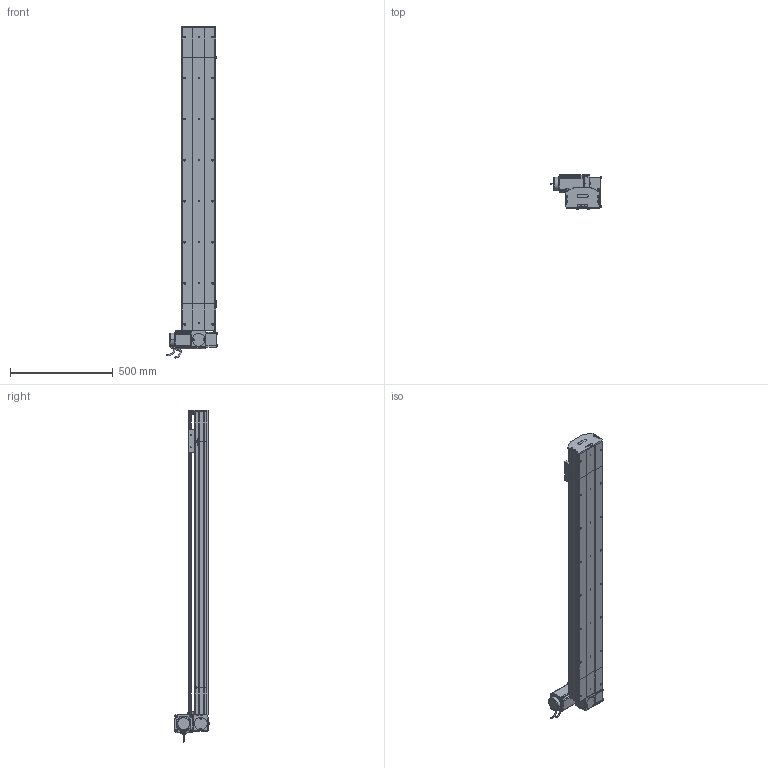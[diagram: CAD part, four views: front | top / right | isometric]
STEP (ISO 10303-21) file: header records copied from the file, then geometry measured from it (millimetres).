
FILE_DESCRIPTION (( 'STEP AP214' ), '1' );
FILE_NAME ('D17 TBN LT S1200.STEP', '2010-06-30T10:45:55', ( 'Christophe Gaillard' ), ( 'SGA' ), 'SwSTEP 2.0', 'SolidWorks 2010', '' );
FILE_SCHEMA (( 'AUTOMOTIVE_DESIGN' ));
Length unit declared in the file: millimetre
Products named in the file (40): D17 TBN LT S1200; course 1200 D17B_Default; Chariot D17 TBN; vis M5 L12_Default; Head LT D17B_Default; corp D17B 1200_Default; tete d''axe poulie D17B; guide D17; cache arbre D17_Default; Renvoi LT_Default; couvercle D17B course L1200_Default; plaque de  bout tail D17B_Default; Vis M5 L16-2_Default; vis M5 L8 90°_Default; Tail D17B_Default; poulie head_Default; couroie head D17_Default; couvercle D17B_Default; poulie tail_Default; plaque de  bout head D17B LT_Default; couvercle D17B head_Default; corpl head D17 _Default; Arbre+rail head D17B; vis M5 L5_Default; cache D17_Default; chariot D17 TBN; vis M5 L70_Default; Plaque racord D17_Default; avant 90BLDC125A-640; corps 90BLDC125A-640; codeur 90BLDC125-640; Conecteur_Default; Conecteur2_Default; vis M5 L25_Default; Moteur motionking 90BLDC125A-640; Couroie+ rail D17 Course 200 ; Rail D17B; corpl tail D17B_Default; Couroie tail D17B_Default; vis M5 L16_Default
Assembly tree (66 placements, depth 4):
  D17 TBN LT S1200
    course 1200 D17B_Default
      couvercle D17B course L1200_Default
      Couroie+ rail D17 Course 200 
      corp D17B 1200_Default
    chariot D17 TBN
      guide D17  x2
      Chariot D17 TBN
    Head LT D17B_Default
      Vis M5 L16-2_Default  x4
      Plaque racord D17_Default
      vis M5 L70_Default  x4
      vis M5 L5_Default  x4
      vis M5 L12_Default  x8
      couroie head D17_Default
      Arbre+rail head D17B
      Renvoi LT_Default
      couvercle D17B head_Default
      poulie head_Default
      vis M5 L16_Default  x2
      corpl head D17 _Default
      cache D17_Default  x2
      vis M5 L25_Default  x2
      plaque de  bout head D17B LT_Default
      Moteur motionking 90BLDC125A-640
        avant 90BLDC125A-640
        Conecteur_Default
        codeur 90BLDC125-640
        Conecteur2_Default
        corps 90BLDC125A-640
      cache arbre D17_Default
    Tail D17B_Default
      tete d''axe poulie D17B
      Couroie tail D17B_Default
      vis M5 L8 90°_Default  x2
      vis M5 L12_Default  x4
      Rail D17B
      corpl tail D17B_Default
      vis M5 L25_Default  x2
      couvercle D17B_Default
      poulie tail_Default
      plaque de  bout tail D17B_Default
Bounding box: 245.2 x 166.15 x 1617.95 mm (x, y, z)
Volume: 10006603.2 mm3; surface area: 2823858.5 mm2
Topology: 89 solids, 89 shells, 2543 faces, 6429 edges, 4146 vertices
Faces by surface type: plane 1533, cylinder 713, bspline 136, cone 80, torus 77, sphere 4
Entity records: 81875 total; most frequent: CARTESIAN_POINT 24555, ORIENTED_EDGE 10030, DIRECTION 9492, EDGE_CURVE 5015, VECTOR 3378, LINE 3378, VERTEX_POINT 3290, AXIS2_PLACEMENT_3D 3057
